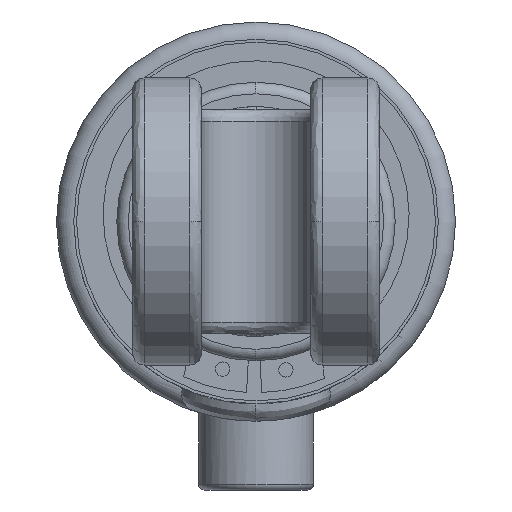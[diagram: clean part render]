
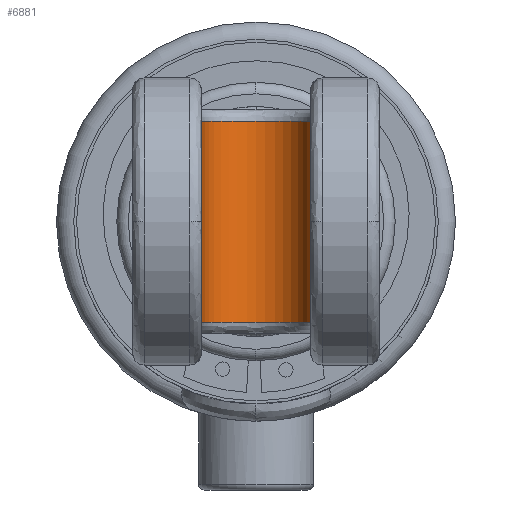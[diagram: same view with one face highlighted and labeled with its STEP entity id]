
A CAD part, left-side view. The second image highlights one B-rep face of the part: STEP entity #6881.
In plain terms, the highlighted cylindrical face has radius 9.5 mm (diameter 19 mm), a partial arc.
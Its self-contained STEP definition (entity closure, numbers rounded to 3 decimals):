
#251 = CIRCLE ( 'NONE', #22391, 9.5 ) ;
#555 = AXIS2_PLACEMENT_3D ( 'NONE', #24683, #13096, #1641 ) ;
#637 = CARTESIAN_POINT ( 'NONE',  ( 0.293, -7.946, -17.5 ) ) ;
#689 = CARTESIAN_POINT ( 'NONE',  ( 0.293, 1.554, 17.5 ) ) ;
#810 = CIRCLE ( 'NONE', #555, 9.5 ) ;
#1641 = DIRECTION ( 'NONE',  ( 1., 0., 0. ) ) ;
#2273 = CARTESIAN_POINT ( 'NONE',  ( 0.293, 1.554, -17.5 ) ) ;
#2559 = DIRECTION ( 'NONE',  ( 1., 0., 0. ) ) ;
#3098 = EDGE_CURVE ( 'NONE', #23605, #18431, #21352, .T. ) ;
#4651 = VERTEX_POINT ( 'NONE', #2273 ) ;
#5724 = EDGE_CURVE ( 'NONE', #7607, #4651, #6822, .T. ) ;
#5800 = DIRECTION ( 'NONE',  ( 1., 0., 0. ) ) ;
#6562 = VECTOR ( 'NONE', #11624, 1000. ) ;
#6822 = LINE ( 'NONE', #9545, #16463 ) ;
#6881 = ADVANCED_FACE ( 'NONE', ( #10424 ), #19479, .F. ) ;
#7607 = VERTEX_POINT ( 'NONE', #689 ) ;
#9545 = CARTESIAN_POINT ( 'NONE',  ( 0.293, 1.554, -19.5 ) ) ;
#10205 = EDGE_CURVE ( 'NONE', #18431, #7607, #810, .T. ) ;
#10424 = FACE_OUTER_BOUND ( 'NONE', #21751, .T. ) ;
#10931 = ORIENTED_EDGE ( 'NONE', *, *, #10205, .F. ) ;
#11624 = DIRECTION ( 'NONE',  ( 0., 0., 1. ) ) ;
#13096 = DIRECTION ( 'NONE',  ( 0., 0., -1. ) ) ;
#13328 = DIRECTION ( 'NONE',  ( 0., 0., -1. ) ) ;
#13565 = ORIENTED_EDGE ( 'NONE', *, *, #5724, .F. ) ;
#14024 = DIRECTION ( 'NONE',  ( 0., 0., 1. ) ) ;
#16318 = ORIENTED_EDGE ( 'NONE', *, *, #23301, .F. ) ;
#16463 = VECTOR ( 'NONE', #13328, 1000. ) ;
#17253 = DIRECTION ( 'NONE',  ( 0., 0., 1. ) ) ;
#17336 = CARTESIAN_POINT ( 'NONE',  ( 0.293, -7.946, -19.5 ) ) ;
#18431 = VERTEX_POINT ( 'NONE', #18840 ) ;
#18840 = CARTESIAN_POINT ( 'NONE',  ( 0.293, -17.446, 17.5 ) ) ;
#19479 = CYLINDRICAL_SURFACE ( 'NONE', #21033, 9.5 ) ;
#21033 = AXIS2_PLACEMENT_3D ( 'NONE', #17336, #17253, #5800 ) ;
#21352 = LINE ( 'NONE', #23205, #6562 ) ;
#21751 = EDGE_LOOP ( 'NONE', ( #22847, #16318, #13565, #10931 ) ) ;
#22391 = AXIS2_PLACEMENT_3D ( 'NONE', #637, #14024, #2559 ) ;
#22847 = ORIENTED_EDGE ( 'NONE', *, *, #3098, .F. ) ;
#23205 = CARTESIAN_POINT ( 'NONE',  ( 0.293, -17.446, -19.5 ) ) ;
#23301 = EDGE_CURVE ( 'NONE', #4651, #23605, #251, .T. ) ;
#23605 = VERTEX_POINT ( 'NONE', #24091 ) ;
#24091 = CARTESIAN_POINT ( 'NONE',  ( 0.293, -17.446, -17.5 ) ) ;
#24683 = CARTESIAN_POINT ( 'NONE',  ( 0.293, -7.946, 17.5 ) ) ;
